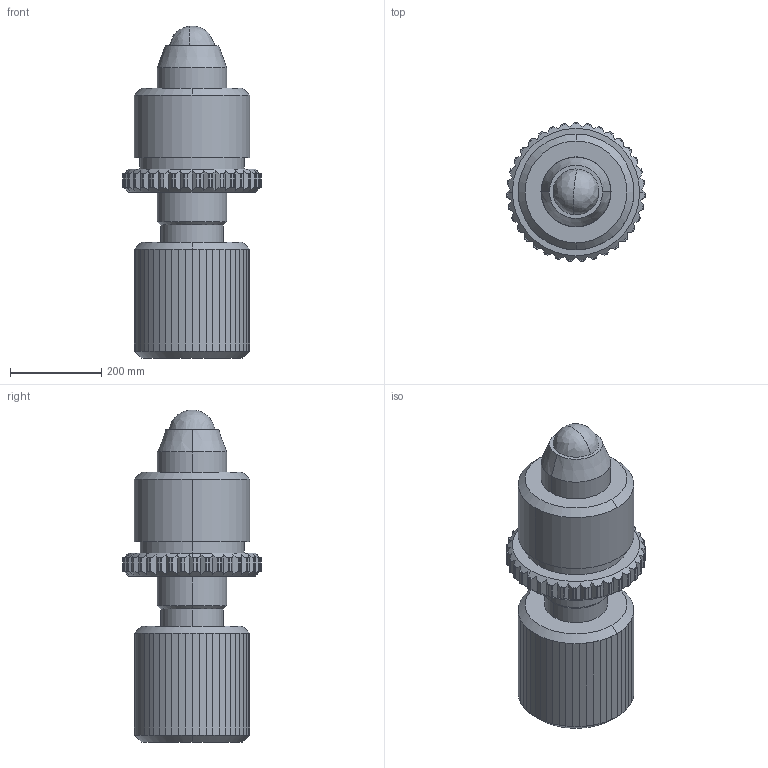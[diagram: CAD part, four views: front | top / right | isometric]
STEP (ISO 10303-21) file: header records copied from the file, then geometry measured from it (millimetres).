
FILE_DESCRIPTION (( 'STEP AP214' ), '1' );
FILE_NAME ('9S7C-8.STEP', '2009-06-30T07:50:15', ( 'ramunas' ), ( '' ), 'SwSTEP 2.0', 'SolidWorks 2003240', '' );
FILE_SCHEMA (( 'AUTOMOTIVE_DESIGN' ));
Length unit declared in the file: inch
Products named in the file (1): 9S7C-8
Bounding box: 304.69 x 304.41 x 729.11 mm (x, y, z)
Volume: 27779229.1 mm3; surface area: 736560.7 mm2
Topology: 1 solids, 2 shells, 454 faces, 1117 edges, 669 vertices
Faces by surface type: plane 304, cylinder 126, cone 22, bspline 2
Entity records: 13543 total; most frequent: CARTESIAN_POINT 2824, DIRECTION 2330, ORIENTED_EDGE 2226, EDGE_CURVE 1113, AXIS2_PLACEMENT_3D 908, VERTEX_POINT 669, VECTOR 514, LINE 514
